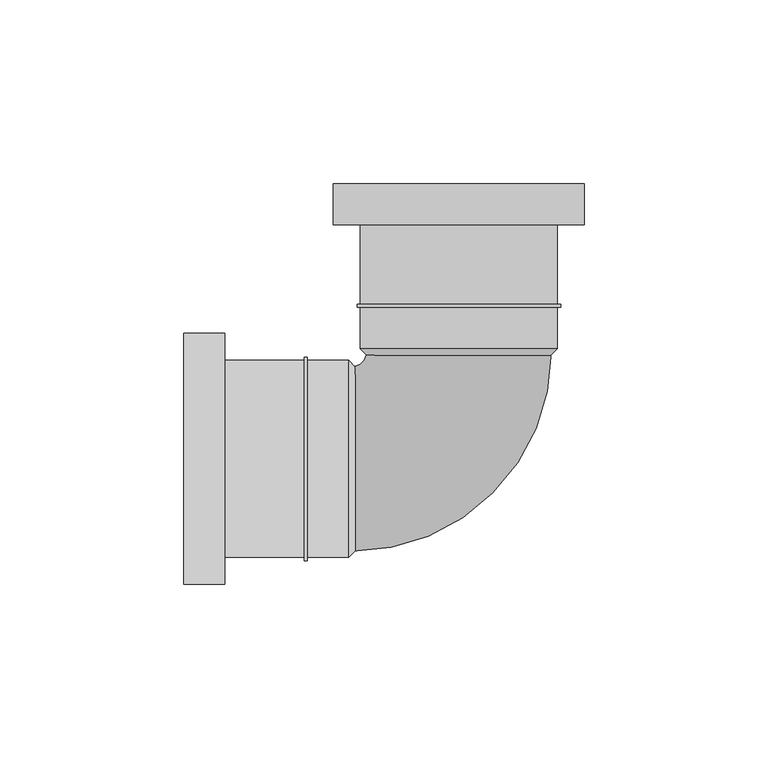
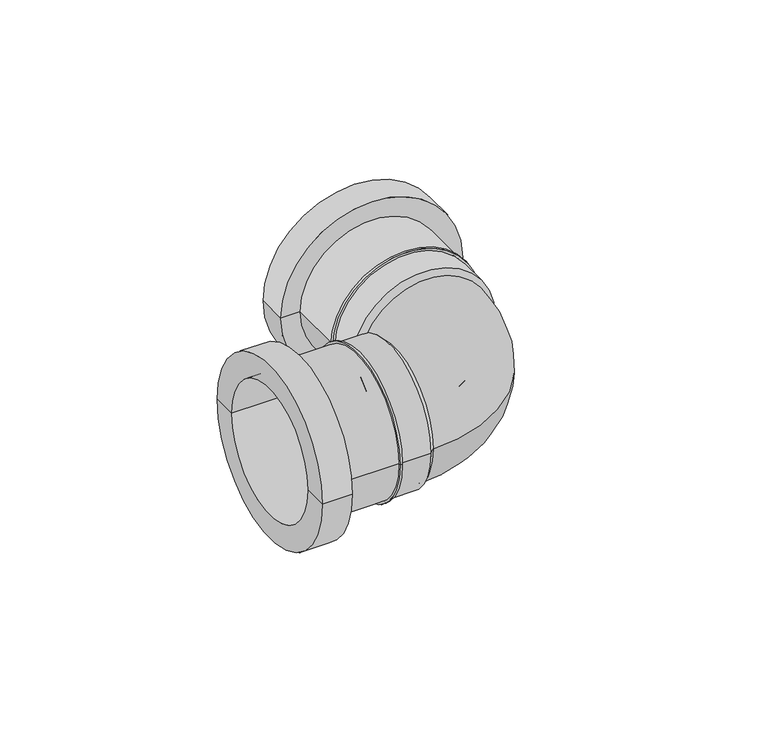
"""IFC4 building model written with IfcOpenShell, lengths in millimetres: pipe fitting geometry, UN_PIF_PP bend S-S_PipeLife : Black, var. DN/OD (max. ø125)."""

import ifcopenshell
import ifcopenshell.guid

model = None  # the IFC model being written
_history = None  # IfcOwnerHistory: only IFC2X3 demands one
_inside = {}  # id of a spatial element -> (the spatial element, [elements in it])
_under = {}  # id of a project, library or spatial element -> (it, [spatial elements below it])
_declared = {}  # id of a project -> (the project, [libraries it declares])
_typed = {}  # id of a type object -> (the type object, [elements of that type])
_made_of = {}  # id of a material, layer set ... -> (it, [elements and type objects made of it])


def new_model(schema):
    """Start an empty IFC model of exactly this schema.

    Asked for "IFC4X3", IfcOpenShell would pick the latest addendum, in which some entities
    have other attributes; the version numbers below select the first issue.
    IFC2X3 requires an IfcOwnerHistory on every rooted entity: one is made here for all.
    """
    global model, _history
    if schema == "IFC4X3":
        model = ifcopenshell.file(schema_version=(4, 3, 0, 0))
    else:
        model = ifcopenshell.file(schema=schema)
    _inside.clear()
    _under.clear()
    _declared.clear()
    _typed.clear()
    _made_of.clear()
    _history = None
    if model.schema == "IFC2X3":
        org = make("IfcOrganization", Name="unknown")
        user = make(
            "IfcPersonAndOrganization",
            ThePerson=make("IfcPerson", FamilyName="unknown"),
            TheOrganization=org,
        )
        app = make(
            "IfcApplication",
            ApplicationDeveloper=org,
            Version="unknown",
            ApplicationFullName="unknown",
            ApplicationIdentifier="unknown",
        )
        _history = make(
            "IfcOwnerHistory",
            OwningUser=user,
            OwningApplication=app,
            ChangeAction="ADDED",
            CreationDate=0,
        )
    return model


def make(cls, **values):
    """One entity of the class cls with the attributes given. An attribute that is None is left unset."""
    return model.create_entity(
        cls, **{name: value for name, value in values.items() if value is not None}
    )


def rooted(cls, **values):
    """An entity with a GlobalId (a new one), such as an element, a storey or a relation."""
    return make(cls, GlobalId=ifcopenshell.guid.new(), OwnerHistory=_history, **values)


def si_unit(unit_type, name, prefix=None):
    """IfcSIUnit, for example si_unit("LENGTHUNIT", "METRE", prefix="MILLI")."""
    return make("IfcSIUnit", UnitType=unit_type, Prefix=prefix, Name=name)


def assignment(units):
    """IfcUnitAssignment: the units of a project."""
    return None if units is None else make("IfcUnitAssignment", Units=units)


def point(xyz):
    """IfcCartesianPoint."""
    return None if xyz is None else make("IfcCartesianPoint", Coordinates=xyz)


def direction(xyz):
    """IfcDirection."""
    return None if xyz is None else make("IfcDirection", DirectionRatios=xyz)


def frame(location, z_axis=None, x_axis=None):
    """IfcAxis2Placement3D, a coordinate frame: its origin and axes. An axis left out is left unset."""
    return make(
        "IfcAxis2Placement3D",
        Location=point(location),
        Axis=direction(z_axis),
        RefDirection=direction(x_axis),
    )


def origin():
    """The frame at (0, 0, 0) with its axes left unset."""
    return frame((0.0, 0.0, 0.0))


def place(relative_to, where):
    """IfcLocalPlacement: puts the frame where relative to a parent placement (None: the world)."""
    return make(
        "IfcLocalPlacement", PlacementRelTo=relative_to, RelativePlacement=where
    )


def context(
    kind, dimensions, precision=None, world=None, true_north=None, identifier=None
):
    """IfcGeometricRepresentationContext, for example the 3D "Model" context."""
    return make(
        "IfcGeometricRepresentationContext",
        ContextIdentifier=identifier,
        ContextType=kind,
        CoordinateSpaceDimension=dimensions,
        Precision=precision,
        WorldCoordinateSystem=world,
        TrueNorth=true_north,
    )


def project(units=None, contexts=None):
    """IfcProject with its units and contexts."""
    return rooted(
        "IfcProject",
        Name="project",
        RepresentationContexts=contexts,
        UnitsInContext=assignment(units),
    )


def spatial(cls, under=None, at=None, **own):
    """A site, building, storey or space (cls), placed at a placement, below another one or the project."""
    s = rooted(cls, ObjectPlacement=at, **own)
    if under is not None:
        _under.setdefault(under.id(), (under, []))[1].append(s)
    return s


def polyline(points):
    """IfcPolyline through the points."""
    return make("IfcPolyline", Points=[point(p) for p in points])


def circle_curve(where, radius):
    """IfcCircle in the frame where."""
    return make("IfcCircle", Position=where, Radius=radius)


def ellipse_curve(where, semi_axis1, semi_axis2):
    """IfcEllipse in the frame where."""
    return make(
        "IfcEllipse", Position=where, SemiAxis1=semi_axis1, SemiAxis2=semi_axis2
    )


def trimmed(basis, trim1, trim2, sense, master):
    """IfcTrimmedCurve: the piece of a basis curve between two trims."""
    return make(
        "IfcTrimmedCurve",
        BasisCurve=basis,
        Trim1=trim1,
        Trim2=trim2,
        SenseAgreement=sense,
        MasterRepresentation=master,
    )


def shape(context_of_items, identifier, shape_type, items):
    """IfcShapeRepresentation: the items that make up one representation, for example the "Body"."""
    return make(
        "IfcShapeRepresentation",
        ContextOfItems=context_of_items,
        RepresentationIdentifier=identifier,
        RepresentationType=shape_type,
        Items=items,
    )


def source(mapping_origin, context_of_items, identifier, shape_type, items):
    """IfcRepresentationMap: a shape defined once, which mapped items show again and again."""
    return make(
        "IfcRepresentationMap",
        MappingOrigin=mapping_origin,
        MappedRepresentation=shape(context_of_items, identifier, shape_type, items),
    )


def transform(
    local_origin,
    x_axis=None,
    y_axis=None,
    z_axis=None,
    scale=None,
    scale2=None,
    scale3=None,
    uniform=True,
):
    """IfcCartesianTransformationOperator3D, or its non-uniform kind. x_axis, y_axis, z_axis: its Axis1, 2, 3."""
    if uniform:
        return make(
            "IfcCartesianTransformationOperator3D",
            Axis1=direction(x_axis),
            Axis2=direction(y_axis),
            LocalOrigin=point(local_origin),
            Scale=scale,
            Axis3=direction(z_axis),
        )
    return make(
        "IfcCartesianTransformationOperator3DnonUniform",
        Axis1=direction(x_axis),
        Axis2=direction(y_axis),
        LocalOrigin=point(local_origin),
        Scale=scale,
        Axis3=direction(z_axis),
        Scale2=scale2,
        Scale3=scale3,
    )


def mapped(mapping_source, mapping_target):
    """IfcMappedItem: shows the shape of a source again, moved by a transform."""
    return make(
        "IfcMappedItem", MappingSource=mapping_source, MappingTarget=mapping_target
    )


def made_of(thing, what):
    """Note that an element or type object is made of a material, layer set ...; save() writes the relation."""
    if what is not None:
        _made_of.setdefault(what.id(), (what, []))[1].append(thing)
    return thing


def element(
    cls,
    number,
    at=None,
    inside=None,
    cuts=None,
    type_object=None,
    material=None,
    context=None,
    identifier="Body",
    shape_type=None,
    held_by="IfcProductDefinitionShape",
    body=None,
    shapes=None,
    **own,
):
    """One element of the class cls, such as IfcWall. Its Tag is "e" and its number.

    at: its placement. inside: the storey or other place that contains it. cuts: it is an
    opening in that element (IfcRelVoidsElement). A single representation is given by context,
    identifier, shape_type and body (its items); several are given by shapes. held_by: the class
    of the entity that holds the representations. save() writes the other relations.
    """
    e = rooted(cls, Tag="e%d" % number, ObjectPlacement=at, **own)
    if body is not None:
        shapes = [shape(context, identifier, shape_type, body)]
    if shapes is not None:
        e.Representation = make(held_by, Representations=shapes)
    if inside is not None:
        _inside.setdefault(inside.id(), (inside, []))[1].append(e)
    if cuts is not None:
        rooted(
            "IfcRelVoidsElement", RelatingBuildingElement=cuts, RelatedOpeningElement=e
        )
    if type_object is not None:
        _typed.setdefault(type_object.id(), (type_object, []))[1].append(e)
    return made_of(e, material)


def aggregate(whole, parts):
    """IfcRelAggregates: a whole, such as a stair, and the parts it consists of."""
    return rooted("IfcRelAggregates", RelatingObject=whole, RelatedObjects=parts)


def save(model, path):
    """Write the relations noted so far, then the file.

    IfcRelAggregates (storeys below a building ...), IfcRelContainedInSpatialStructure (elements
    in a storey), IfcRelDefinesByType, IfcRelAssociatesMaterial and IfcRelDeclares: one each for
    every whole, place, type object, material and project.
    """
    for whole, parts in _under.values():
        aggregate(whole, parts)
    for where, things in _inside.values():
        rooted(
            "IfcRelContainedInSpatialStructure",
            RelatedElements=things,
            RelatingStructure=where,
        )
    for kind, things in _typed.values():
        rooted("IfcRelDefinesByType", RelatedObjects=things, RelatingType=kind)
    for what, things in _made_of.values():
        rooted("IfcRelAssociatesMaterial", RelatedObjects=things, RelatingMaterial=what)
    for by, libraries in _declared.values():
        rooted("IfcRelDeclares", RelatingContext=by, RelatedDefinitions=libraries)
    model.write(path)


def plane_surface(at):
    """IfcPlane: the flat surface through the origin of the frame at, square to its z axis."""
    return make("IfcPlane", Position=at)


def cylinder_surface(at, radius):
    """IfcCylindricalSurface: all points at the distance radius from the z axis of the frame at."""
    return make("IfcCylindricalSurface", Position=at, Radius=radius)


def revolved_surface(curve, axis_point, axis_direction):
    """IfcSurfaceOfRevolution: the curve turned about the line through axis_point along axis_direction."""
    return make(
        "IfcSurfaceOfRevolution",
        SweptCurve=make("IfcArbitraryOpenProfileDef", ProfileType="CURVE", Curve=curve),
        AxisPosition=make("IfcAxis1Placement", Location=point(axis_point), Axis=direction(axis_direction)),
    )


def advanced_brep(points, edges, surfaces, faces):
    """IfcAdvancedBrep: a solid bounded by faces that lie on surfaces and meet in shared edges.

    An edge is (start, end): straight between two places in points (the first is 0);
    or (start, end, curve); or (start, end, curve, False) where it runs against its curve.
    A face is (place in surfaces, loops), or (place, loops, False) where it looks against
    its surface's normal. A loop lists edges by number (the first is 1), with a minus sign
    where the edge is run from its end to its start. The first loop is the outer one.
    """
    corners = [point(p) for p in points]
    vertices = [make("IfcVertexPoint", VertexGeometry=c) for c in corners]
    made = []
    for start, end, *more in edges:
        made.append(
            make(
                "IfcEdgeCurve",
                EdgeStart=vertices[start],
                EdgeEnd=vertices[end],
                EdgeGeometry=more[0] if more else make("IfcPolyline", Points=[corners[start], corners[end]]),
                SameSense=more[1] if len(more) > 1 else True,
            )
        )
    hull = []
    for where, loops, *sense in faces:
        bounds = []
        for j, loop in enumerate(loops):
            ring = [make("IfcOrientedEdge", EdgeElement=made[abs(k) - 1], Orientation=k > 0) for k in loop]
            bounds.append(
                make(
                    "IfcFaceOuterBound" if j == 0 else "IfcFaceBound",
                    Bound=make("IfcEdgeLoop", EdgeList=ring),
                    Orientation=True,
                )
            )
        hull.append(make("IfcAdvancedFace", Bounds=bounds, FaceSurface=surfaces[where], SameSense=sense[0] if sense else True))
    return make("IfcAdvancedBrep", Outer=make("IfcClosedShell", CfsFaces=hull))


def pipe_fitting_90dc489b(model_context):
    return source(origin(), model_context, "Body", "AdvancedBrep", [
        advanced_brep(
        [(-28.15, 25.0, 0.0), (-28.15, -25.0, 0.0), (-30.0, -26.85, 0.0), (-30.0, 26.85, 0.0), (-74.9, 34.15, 0.0), (-74.9, -34.15, 0.0), (-74.9, -25.0, 0.0), (-74.9, 25.0, 0.0), (-63.675, 34.15, 0.0), (-63.675, -34.15, 0.0), (-63.675, 26.85, 0.0), (-63.675, -26.85, 0.0), (-42.075, 26.85, 0.0), (-42.075, -26.85, 0.0), (-42.075, 27.7, 0.0), (-42.075, -27.7, 0.0), (-41.225, 27.7, 0.0), (-41.225, -27.7, 0.0), (-41.225, 26.85, 0.0), (-41.225, -26.85, 0.0)],
        [
            (0, 1, circle_curve(frame((-28.15, 0.0, 0.0), z_axis=(-1.0, 0.0, 0.0), x_axis=(0.0, -1.0, 0.0)), 25.0)),
            (1, 2),
            (2, 3, circle_curve(frame((-30.0, 0.0, 0.0), z_axis=(1.0, 0.0, 0.0), x_axis=(0.0, -1.0, 0.0)), 26.85)),
            (3, 0),
            (1, 0, circle_curve(frame((-28.15, 0.0, 0.0), z_axis=(-1.0, 0.0, 0.0), x_axis=(0.0, -1.0, 0.0)), 25.0)),
            (3, 2, circle_curve(frame((-30.0, 0.0, 0.0), z_axis=(1.0, 0.0, 0.0), x_axis=(0.0, -1.0, 0.0)), 26.85)),
            (4, 5, circle_curve(frame((-74.9, 0.0, 0.0), z_axis=(-1.0, 0.0, 0.0), x_axis=(0.0, -1.0, 0.0)), 34.15)),
            (5, 6),
            (6, 7, circle_curve(frame((-74.9, 0.0, 0.0), z_axis=(1.0, 0.0, 0.0), x_axis=(0.0, -1.0, 0.0)), 25.0)),
            (7, 4),
            (5, 4, circle_curve(frame((-74.9, 0.0, 0.0), z_axis=(-1.0, 0.0, 0.0), x_axis=(0.0, -1.0, 0.0)), 34.15)),
            (7, 6, circle_curve(frame((-74.9, 0.0, 0.0), z_axis=(1.0, 0.0, 0.0), x_axis=(0.0, -1.0, 0.0)), 25.0)),
            (8, 9, circle_curve(frame((-63.675, 0.0, 0.0), z_axis=(-1.0, 0.0, 0.0), x_axis=(0.0, -1.0, 0.0)), 34.15)),
            (9, 5),
            (4, 8),
            (9, 8, circle_curve(frame((-63.675, 0.0, 0.0), z_axis=(-1.0, 0.0, 0.0), x_axis=(0.0, -1.0, 0.0)), 34.15)),
            (10, 11, circle_curve(frame((-63.675, 0.0, 0.0), z_axis=(-1.0, 0.0, 0.0), x_axis=(0.0, -1.0, 0.0)), 26.85)),
            (11, 9),
            (8, 10),
            (11, 10, circle_curve(frame((-63.675, 0.0, 0.0), z_axis=(-1.0, 0.0, 0.0), x_axis=(0.0, -1.0, 0.0)), 26.85)),
            (12, 13, circle_curve(frame((-42.075, 0.0, 0.0), z_axis=(-1.0, 0.0, 0.0), x_axis=(0.0, -1.0, 0.0)), 26.85)),
            (13, 11),
            (10, 12),
            (13, 12, circle_curve(frame((-42.075, 0.0, 0.0), z_axis=(-1.0, 0.0, 0.0), x_axis=(0.0, -1.0, 0.0)), 26.85)),
            (14, 15, circle_curve(frame((-42.075, 0.0, 0.0), z_axis=(-1.0, 0.0, 0.0), x_axis=(0.0, -1.0, 0.0)), 27.7)),
            (15, 13),
            (12, 14),
            (15, 14, circle_curve(frame((-42.075, 0.0, 0.0), z_axis=(-1.0, 0.0, 0.0), x_axis=(0.0, -1.0, 0.0)), 27.7)),
            (16, 17, circle_curve(frame((-41.225, 0.0, 0.0), z_axis=(-1.0, 0.0, 0.0), x_axis=(0.0, -1.0, 0.0)), 27.7)),
            (17, 15),
            (14, 16),
            (17, 16, circle_curve(frame((-41.225, 0.0, 0.0), z_axis=(-1.0, 0.0, 0.0), x_axis=(0.0, -1.0, 0.0)), 27.7)),
            (18, 19, circle_curve(frame((-41.225, 0.0, 0.0), z_axis=(-1.0, 0.0, 0.0), x_axis=(0.0, -1.0, 0.0)), 26.85)),
            (19, 17),
            (16, 18),
            (19, 18, circle_curve(frame((-41.225, 0.0, 0.0), z_axis=(-1.0, 0.0, 0.0), x_axis=(0.0, -1.0, 0.0)), 26.85)),
            (2, 19),
            (18, 3),
            (6, 1),
            (0, 7),
        ],
        [
            revolved_surface(polyline([(-30.0, -26.85, 0.0), (-28.15, -25.0, 0.0)]), (-74.9, 0.0, 0.0), (1.0, 0.0, 0.0)),
            plane_surface(frame((-74.9, 0.0, 0.0), z_axis=(-1.0, 0.0, 0.0), x_axis=(0.0, -1.0, 0.0))),
            cylinder_surface(frame((-74.9, 0.0, 0.0), z_axis=(1.0, 0.0, 0.0), x_axis=(0.0, -1.0, 0.0)), 34.15),
            plane_surface(frame((-63.675, 0.0, 0.0), z_axis=(1.0, 0.0, 0.0), x_axis=(0.0, -1.0, 0.0))),
            cylinder_surface(frame((-74.9, 0.0, 0.0), z_axis=(1.0, 0.0, 0.0), x_axis=(0.0, -1.0, 0.0)), 26.85),
            plane_surface(frame((-42.075, 0.0, 0.0), z_axis=(-1.0, 0.0, 0.0), x_axis=(0.0, -1.0, 0.0))),
            cylinder_surface(frame((-74.9, 0.0, 0.0), z_axis=(1.0, 0.0, 0.0), x_axis=(0.0, -1.0, 0.0)), 27.7),
            plane_surface(frame((-41.225, 0.0, 0.0), z_axis=(1.0, 0.0, 0.0), x_axis=(0.0, -1.0, 0.0))),
            revolved_surface(polyline([(-28.15, -25.0, 0.0), (-74.9, -25.0, 0.0)]), (-74.9, 0.0, 0.0), (1.0, 0.0, 0.0)),
        ],
        [
            (0, [[1, 2, 3, 4]]),
            (0, [[5, -4, 6, -2]]),
            (1, [[7, 8, 9, 10]]),
            (1, [[11, -10, 12, -8]]),
            (2, [[13, 14, -7, 15]]),
            (2, [[16, -15, -11, -14]]),
            (3, [[17, 18, -13, 19]]),
            (3, [[20, -19, -16, -18]]),
            (4, [[21, 22, -17, 23]]),
            (4, [[24, -23, -20, -22]]),
            (5, [[25, 26, -21, 27]]),
            (5, [[28, -27, -24, -26]]),
            (6, [[29, 30, -25, 31]]),
            (6, [[32, -31, -28, -30]]),
            (7, [[33, 34, -29, 35]]),
            (7, [[36, -35, -32, -34]]),
            (4, [[-3, 37, -33, 38]]),
            (4, [[-6, -38, -36, -37]]),
            (8, [[-9, 39, -1, 40]]),
            (8, [[-12, -40, -5, -39]]),
        ],
    ),
        advanced_brep(
        [(25.0, 28.15, 0.0), (-25.0, 28.15, 0.0), (-26.85, 30.0, 0.0), (26.85, 30.0, 0.0), (34.15, 74.9, 0.0), (-34.15, 74.9, 0.0), (-25.0, 74.9, 0.0), (25.0, 74.9, 0.0), (34.15, 63.675, 0.0), (-34.15, 63.675, 0.0), (26.85, 63.675, 0.0), (-26.85, 63.675, 0.0), (26.85, 42.075, 0.0), (-26.85, 42.075, 0.0), (27.7, 42.075, 0.0), (-27.7, 42.075, 0.0), (27.7, 41.225, 0.0), (-27.7, 41.225, 0.0), (26.85, 41.225, 0.0), (-26.85, 41.225, 0.0)],
        [
            (0, 1, circle_curve(frame((0.0, 28.15, 0.0), z_axis=(0.0, 1.0, 0.0), x_axis=(-1.0, 0.0, 0.0)), 25.0)),
            (1, 2),
            (2, 3, circle_curve(frame((0.0, 30.0, 0.0), z_axis=(0.0, -1.0, 0.0), x_axis=(-1.0, 0.0, 0.0)), 26.85)),
            (3, 0),
            (1, 0, circle_curve(frame((0.0, 28.15, 0.0), z_axis=(0.0, 1.0, 0.0), x_axis=(-1.0, 0.0, 0.0)), 25.0)),
            (3, 2, circle_curve(frame((0.0, 30.0, 0.0), z_axis=(0.0, -1.0, 0.0), x_axis=(-1.0, 0.0, 0.0)), 26.85)),
            (4, 5, circle_curve(frame((0.0, 74.9, 0.0), z_axis=(0.0, 1.0, 0.0), x_axis=(-1.0, 0.0, 0.0)), 34.15)),
            (5, 6),
            (6, 7, circle_curve(frame((0.0, 74.9, 0.0), z_axis=(0.0, -1.0, 0.0), x_axis=(-1.0, 0.0, 0.0)), 25.0)),
            (7, 4),
            (5, 4, circle_curve(frame((0.0, 74.9, 0.0), z_axis=(0.0, 1.0, 0.0), x_axis=(-1.0, 0.0, 0.0)), 34.15)),
            (7, 6, circle_curve(frame((0.0, 74.9, 0.0), z_axis=(0.0, -1.0, 0.0), x_axis=(-1.0, 0.0, 0.0)), 25.0)),
            (8, 9, circle_curve(frame((0.0, 63.675, 0.0), z_axis=(0.0, 1.0, 0.0), x_axis=(-1.0, 0.0, 0.0)), 34.15)),
            (9, 5),
            (4, 8),
            (9, 8, circle_curve(frame((0.0, 63.675, 0.0), z_axis=(0.0, 1.0, 0.0), x_axis=(-1.0, 0.0, 0.0)), 34.15)),
            (10, 11, circle_curve(frame((0.0, 63.675, 0.0), z_axis=(0.0, 1.0, 0.0), x_axis=(-1.0, 0.0, 0.0)), 26.85)),
            (11, 9),
            (8, 10),
            (11, 10, circle_curve(frame((0.0, 63.675, 0.0), z_axis=(0.0, 1.0, 0.0), x_axis=(-1.0, 0.0, 0.0)), 26.85)),
            (12, 13, circle_curve(frame((0.0, 42.075, 0.0), z_axis=(0.0, 1.0, 0.0), x_axis=(-1.0, 0.0, 0.0)), 26.85)),
            (13, 11),
            (10, 12),
            (13, 12, circle_curve(frame((0.0, 42.075, 0.0), z_axis=(0.0, 1.0, 0.0), x_axis=(-1.0, 0.0, 0.0)), 26.85)),
            (14, 15, circle_curve(frame((0.0, 42.075, 0.0), z_axis=(0.0, 1.0, 0.0), x_axis=(-1.0, 0.0, 0.0)), 27.7)),
            (15, 13),
            (12, 14),
            (15, 14, circle_curve(frame((0.0, 42.075, 0.0), z_axis=(0.0, 1.0, 0.0), x_axis=(-1.0, 0.0, 0.0)), 27.7)),
            (16, 17, circle_curve(frame((0.0, 41.225, 0.0), z_axis=(0.0, 1.0, 0.0), x_axis=(-1.0, 0.0, 0.0)), 27.7)),
            (17, 15),
            (14, 16),
            (17, 16, circle_curve(frame((0.0, 41.225, 0.0), z_axis=(0.0, 1.0, 0.0), x_axis=(-1.0, 0.0, 0.0)), 27.7)),
            (18, 19, circle_curve(frame((0.0, 41.225, 0.0), z_axis=(0.0, 1.0, 0.0), x_axis=(-1.0, 0.0, 0.0)), 26.85)),
            (19, 17),
            (16, 18),
            (19, 18, circle_curve(frame((0.0, 41.225, 0.0), z_axis=(0.0, 1.0, 0.0), x_axis=(-1.0, 0.0, 0.0)), 26.85)),
            (2, 19),
            (18, 3),
            (6, 1),
            (0, 7),
        ],
        [
            revolved_surface(polyline([(-26.85, 30.0, 0.0), (-25.0, 28.15, 0.0)]), (0.0, 74.9, 0.0), (0.0, -1.0, 0.0)),
            plane_surface(frame((0.0, 74.9, 0.0), z_axis=(0.0, 1.0, 0.0), x_axis=(-1.0, 0.0, 0.0))),
            cylinder_surface(frame((0.0, 74.9, 0.0), z_axis=(0.0, -1.0, 0.0), x_axis=(-1.0, 0.0, 0.0)), 34.15),
            plane_surface(frame((0.0, 63.675, 0.0), z_axis=(0.0, -1.0, 0.0), x_axis=(-1.0, 0.0, 0.0))),
            cylinder_surface(frame((0.0, 74.9, 0.0), z_axis=(0.0, -1.0, 0.0), x_axis=(-1.0, 0.0, 0.0)), 26.85),
            plane_surface(frame((0.0, 42.075, 0.0), z_axis=(0.0, 1.0, 0.0), x_axis=(-1.0, 0.0, 0.0))),
            cylinder_surface(frame((0.0, 74.9, 0.0), z_axis=(0.0, -1.0, 0.0), x_axis=(-1.0, 0.0, 0.0)), 27.7),
            plane_surface(frame((0.0, 41.225, 0.0), z_axis=(0.0, -1.0, 0.0), x_axis=(-1.0, 0.0, 0.0))),
            revolved_surface(polyline([(-25.0, 28.15, 0.0), (-25.0, 74.9, 0.0)]), (0.0, 74.9, 0.0), (0.0, -1.0, 0.0)),
        ],
        [
            (0, [[1, 2, 3, 4]]),
            (0, [[5, -4, 6, -2]]),
            (1, [[7, 8, 9, 10]]),
            (1, [[11, -10, 12, -8]]),
            (2, [[13, 14, -7, 15]]),
            (2, [[16, -15, -11, -14]]),
            (3, [[17, 18, -13, 19]]),
            (3, [[20, -19, -16, -18]]),
            (4, [[21, 22, -17, 23]]),
            (4, [[24, -23, -20, -22]]),
            (5, [[25, 26, -21, 27]]),
            (5, [[28, -27, -24, -26]]),
            (6, [[29, 30, -25, 31]]),
            (6, [[32, -31, -28, -30]]),
            (7, [[33, 34, -29, 35]]),
            (7, [[36, -35, -32, -34]]),
            (4, [[-3, 37, -33, 38]]),
            (4, [[-6, -38, -36, -37]]),
            (8, [[-9, 39, -1, 40]]),
            (8, [[-12, -40, -5, -39]]),
        ],
    ),
        advanced_brep(
        [(-30.0, -25.15, 0.0), (-30.0, 25.15, 0.0), (-29.0, -25.15, 0.0), (-29.0, 25.15, 0.0), (-25.15, 29.0, 0.0), (25.15, 29.0, 0.0), (25.15, 30.0, 0.0), (-25.15, 30.0, 0.0)],
        [
            (0, 1, circle_curve(frame((-30.0, 0.0, 0.0), z_axis=(-1.0, 0.0, 0.0), x_axis=(0.0, 1.0, 0.0)), 25.15)),
            (1, 0, circle_curve(frame((-30.0, 0.0, 0.0), z_axis=(-1.0, 0.0, 0.0), x_axis=(0.0, 1.0, 0.0)), 25.15)),
            (0, 2),
            (2, 3, circle_curve(frame((-29.0, 0.0, 0.0), z_axis=(-1.0, 0.0, 0.0), x_axis=(0.0, 1.0, 0.0)), 25.15)),
            (3, 1),
            (3, 2, circle_curve(frame((-29.0, 0.0, 0.0), z_axis=(-1.0, 0.0, 0.0), x_axis=(0.0, 1.0, 0.0)), 25.15)),
            (4, 3, circle_curve(frame((-29.0, 29.0, 0.0), z_axis=(0.0, 0.0, -1.0), x_axis=(0.0, -1.0, 0.0)), 3.85)),
            (2, 5, circle_curve(frame((-29.0, 29.0, 0.0), z_axis=(0.0, 0.0, 1.0), x_axis=(0.0, -1.0, 0.0)), 54.15)),
            (5, 4, circle_curve(frame((0.0, 29.0, 0.0), z_axis=(0.0, -1.0, 0.0), x_axis=(-1.0, 0.0, 0.0)), 25.15)),
            (4, 5, circle_curve(frame((0.0, 29.0, 0.0), z_axis=(0.0, -1.0, 0.0), x_axis=(-1.0, 0.0, 0.0)), 25.15)),
            (6, 7, circle_curve(frame((0.0, 30.0, 0.0), z_axis=(0.0, 1.0, 0.0), x_axis=(-1.0, 0.0, 0.0)), 25.15)),
            (7, 6, circle_curve(frame((0.0, 30.0, 0.0), z_axis=(0.0, 1.0, 0.0), x_axis=(-1.0, 0.0, 0.0)), 25.15)),
            (5, 6),
            (7, 4),
        ],
        [
            plane_surface(frame((-30.0, 0.0, 0.0), z_axis=(-1.0, 0.0, 0.0), x_axis=(0.0, 0.0, 1.0))),
            cylinder_surface(frame((-30.0, 0.0, 0.0), z_axis=(-1.0, 0.0, 0.0), x_axis=(0.0, 1.0, 0.0)), 25.15),
            revolved_surface(trimmed(ellipse_curve(frame((-29.0, 0.0, 0.0), z_axis=(-1.0, 0.0, 0.0), x_axis=(0.0, 1.0, 0.0)), 25.15, 25.15), [point((-29.0, -25.15, 0.0))], [point((-29.0, 25.15, 0.0))], True, "CARTESIAN"), (-29.0, 29.0, 0.0), (0.0, 0.0, 1.0)),
            revolved_surface(trimmed(ellipse_curve(frame((-29.0, 0.0, 0.0), z_axis=(-1.0, 0.0, 0.0), x_axis=(0.0, 1.0, 0.0)), 25.15, 25.15), [point((-29.0, 25.15, 0.0))], [point((-29.0, -25.15, 0.0))], True, "CARTESIAN"), (-29.0, 29.0, 0.0), (0.0, 0.0, 1.0)),
            plane_surface(frame((0.0, 30.0, 0.0), z_axis=(0.0, 1.0, 0.0), x_axis=(0.0, 0.0, 1.0))),
            cylinder_surface(frame((0.0, 29.0, 0.0), z_axis=(0.0, -1.0, 0.0), x_axis=(-1.0, 0.0, 0.0)), 25.15),
        ],
        [
            (0, [[1, 2]]),
            (1, [[-1, 3, 4, 5]]),
            (1, [[-2, -5, 6, -3]]),
            (2, [[7, -4, 8, 9]]),
            (3, [[-8, -6, -7, 10]]),
            (4, [[11, 12]]),
            (5, [[-9, 13, -12, 14]]),
            (5, [[-10, -14, -11, -13]]),
        ],
    ),
    ])


if __name__ == "__main__":
    model = new_model("IFC4")
    model_context = context("Model", 3, world=origin())
    ifc_project = project(units=[si_unit("LENGTHUNIT", "METRE", prefix="MILLI")], contexts=[model_context])
    site = spatial("IfcSite", under=ifc_project)
    building = spatial("IfcBuilding", under=site)
    placement = place(None, origin())
    pipe_fitting_shape = pipe_fitting_90dc489b(model_context)
    element("IfcPipeFitting", 1, ObjectType="UN_PIF_PP bend S-S_PipeLife : Black, var. DN/OD (max. ø125)", at=placement, inside=building, context=model_context, shape_type="MappedRepresentation", body=[
        mapped(pipe_fitting_shape, transform((0.0, 0.0, 0.0), x_axis=(1.0, 0.0, 0.0), y_axis=(0.0, 1.0, 0.0), z_axis=(0.0, 0.0, 1.0))),
    ])
    save(model, "model.ifc")
